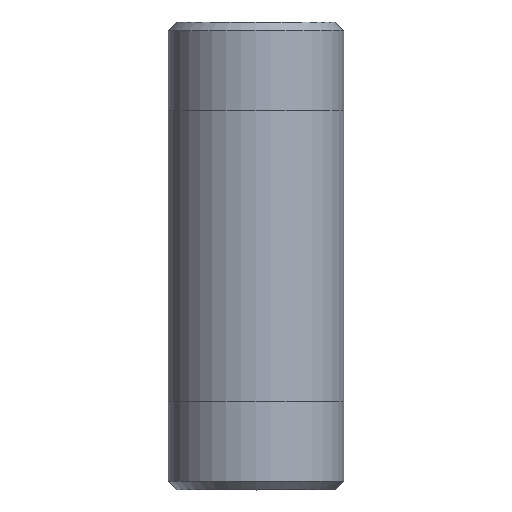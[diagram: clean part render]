
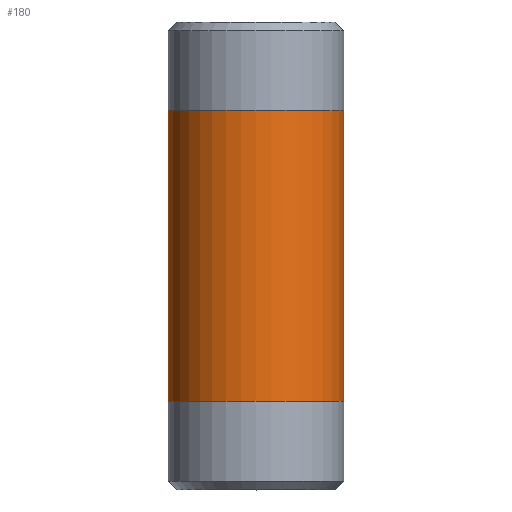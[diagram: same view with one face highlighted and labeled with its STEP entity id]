
A CAD part, top view. The second image highlights one B-rep face of the part: STEP entity #180.
In plain terms, the highlighted cylindrical face has radius 16.701 mm (diameter 33.401 mm), a full revolution.
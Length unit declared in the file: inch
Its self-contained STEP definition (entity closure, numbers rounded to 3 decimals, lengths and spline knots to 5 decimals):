
#25=CYLINDRICAL_SURFACE('',#220,0.6575);
#34=FACE_OUTER_BOUND('',#47,.T.);
#47=EDGE_LOOP('',(#155,#156,#157,#158,#159,#160));
#55=LINE('',#338,#61);
#61=VECTOR('',#283,0.6575);
#77=CIRCLE('',#218,0.6575);
#78=CIRCLE('',#219,0.6575);
#79=CIRCLE('',#221,0.6575);
#80=CIRCLE('',#222,0.6575);
#95=VERTEX_POINT('',#329);
#96=VERTEX_POINT('',#330);
#97=VERTEX_POINT('',#334);
#98=VERTEX_POINT('',#335);
#117=EDGE_CURVE('',#95,#96,#77,.T.);
#118=EDGE_CURVE('',#96,#95,#78,.T.);
#119=EDGE_CURVE('',#97,#98,#79,.T.);
#120=EDGE_CURVE('',#98,#97,#80,.T.);
#121=EDGE_CURVE('',#98,#96,#55,.T.);
#155=ORIENTED_EDGE('',*,*,#119,.F.);
#156=ORIENTED_EDGE('',*,*,#120,.F.);
#157=ORIENTED_EDGE('',*,*,#121,.T.);
#158=ORIENTED_EDGE('',*,*,#118,.T.);
#159=ORIENTED_EDGE('',*,*,#117,.T.);
#160=ORIENTED_EDGE('',*,*,#121,.F.);
#180=ADVANCED_FACE('',(#34),#25,.T.);
#218=AXIS2_PLACEMENT_3D('',#331,#273,#274);
#219=AXIS2_PLACEMENT_3D('',#332,#275,#276);
#220=AXIS2_PLACEMENT_3D('',#333,#277,#278);
#221=AXIS2_PLACEMENT_3D('',#336,#279,#280);
#222=AXIS2_PLACEMENT_3D('',#337,#281,#282);
#273=DIRECTION('center_axis',(0.,-1.,0.));
#274=DIRECTION('ref_axis',(1.,0.,0.));
#275=DIRECTION('center_axis',(0.,-1.,0.));
#276=DIRECTION('ref_axis',(1.,0.,0.));
#277=DIRECTION('center_axis',(0.,-1.,0.));
#278=DIRECTION('ref_axis',(0.,0.,-1.));
#279=DIRECTION('center_axis',(0.,-1.,0.));
#280=DIRECTION('ref_axis',(1.,0.,0.));
#281=DIRECTION('center_axis',(0.,-1.,0.));
#282=DIRECTION('ref_axis',(1.,0.,0.));
#283=DIRECTION('',(0.,1.,0.));
#329=CARTESIAN_POINT('',(0.,2.839,-0.6575));
#330=CARTESIAN_POINT('',(0.,2.839,0.6575));
#331=CARTESIAN_POINT('Origin',(0.,2.839,0.));
#332=CARTESIAN_POINT('Origin',(0.,2.839,0.));
#333=CARTESIAN_POINT('Origin',(0.,1.75,0.));
#334=CARTESIAN_POINT('',(0.,0.661,-0.6575));
#335=CARTESIAN_POINT('',(0.,0.661,0.6575));
#336=CARTESIAN_POINT('Origin',(0.,0.661,0.));
#337=CARTESIAN_POINT('Origin',(0.,0.661,0.));
#338=CARTESIAN_POINT('',(0.,1.75,0.6575));
